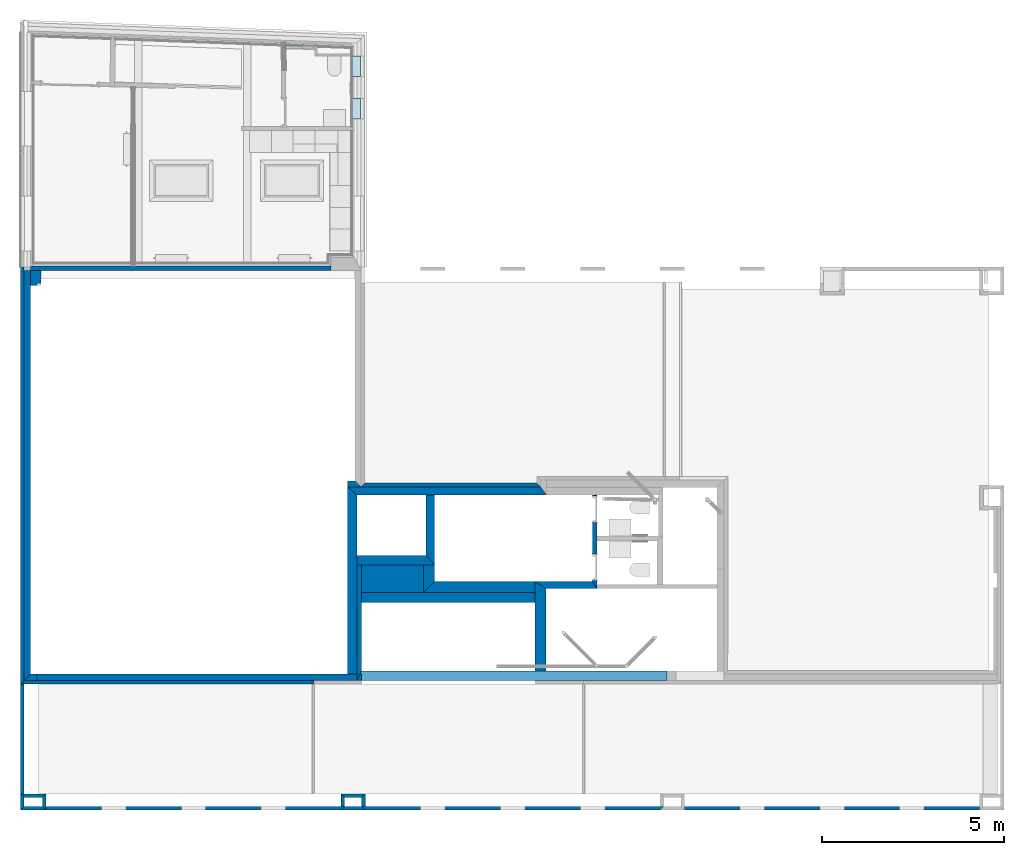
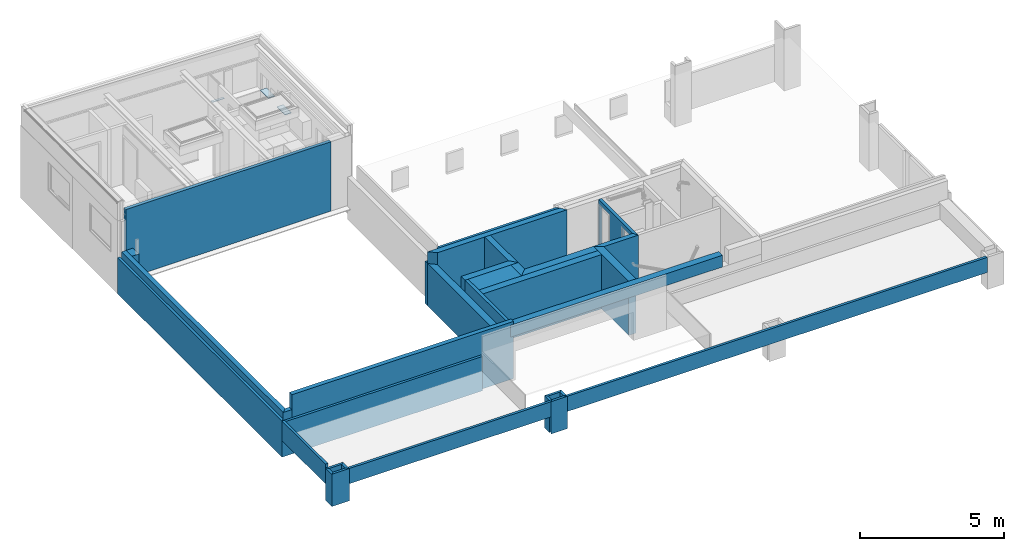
# One storey, part 2 of 23: 32 walls, 3 slabs, 2 openings.
"""IFC2X3 building model written with IfcOpenShell, lengths in metres."""

from ifc_helpers import new_model, entity, si_unit, converted_unit, derived_unit, money_unit, direction, frame, frame_2d, origin_with_axes, place, context, subcontext, project, spatial, polyline, rectangle, outline, extrude, faceted_brep, material, layer, layer_set, layer_usage, type_object, element, save


model = new_model("IFC2X3")

# Units and contexts
model_context = context("Model", 3, precision=1e-05, world=origin_with_axes(), true_north=direction((0.0, 1.0)))
body_context = subcontext(model_context, "Body", "Model", "MODEL_VIEW", scale=1.0)
ifc_project = project(units=[si_unit("LENGTHUNIT", "METRE"), si_unit("AREAUNIT", "SQUARE_METRE"), si_unit("VOLUMEUNIT", "CUBIC_METRE"), si_unit("ABSORBEDDOSEUNIT", "GRAY"), si_unit("AMOUNTOFSUBSTANCEUNIT", "MOLE"), si_unit("DOSEEQUIVALENTUNIT", "SIEVERT"), si_unit("ELECTRICCAPACITANCEUNIT", "FARAD"), si_unit("ELECTRICCHARGEUNIT", "COULOMB"), si_unit("ELECTRICCONDUCTANCEUNIT", "SIEMENS"), si_unit("ELECTRICCURRENTUNIT", "AMPERE"), si_unit("ELECTRICRESISTANCEUNIT", "OHM"), si_unit("ELECTRICVOLTAGEUNIT", "VOLT"), si_unit("ENERGYUNIT", "JOULE"), si_unit("FORCEUNIT", "NEWTON"), si_unit("FREQUENCYUNIT", "HERTZ"), si_unit("ILLUMINANCEUNIT", "LUX"), si_unit("INDUCTANCEUNIT", "HENRY"), si_unit("LUMINOUSFLUXUNIT", "LUMEN"), si_unit("LUMINOUSINTENSITYUNIT", "CANDELA"), si_unit("MAGNETICFLUXDENSITYUNIT", "TESLA"), si_unit("MAGNETICFLUXUNIT", "WEBER"), si_unit("MASSUNIT", "GRAM"), converted_unit("PLANEANGLEUNIT", "degree", entity("IfcReal", 0.0174532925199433), si_unit("PLANEANGLEUNIT", "RADIAN"), dimensions=[0, 0, 0, 0, 0, 0, 0]), si_unit("POWERUNIT", "WATT"), si_unit("PRESSUREUNIT", "PASCAL"), si_unit("RADIOACTIVITYUNIT", "BECQUEREL"), si_unit("SOLIDANGLEUNIT", "STERADIAN"), si_unit("THERMODYNAMICTEMPERATUREUNIT", "KELVIN"), si_unit("TIMEUNIT", "SECOND"), derived_unit("ACCELERATIONUNIT", [(si_unit("LENGTHUNIT", "METRE"), 1), (si_unit("TIMEUNIT", "SECOND"), -2)]), derived_unit("ANGULARVELOCITYUNIT", [(converted_unit("PLANEANGLEUNIT", "degree", entity("IfcReal", 0.0174532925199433), si_unit("PLANEANGLEUNIT", "RADIAN"), dimensions=[0, 0, 0, 0, 0, 0, 0]), 1), (si_unit("TIMEUNIT", "SECOND"), -1)]), derived_unit("CURVATUREUNIT", [(converted_unit("PLANEANGLEUNIT", "degree", entity("IfcReal", 0.0174532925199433), si_unit("PLANEANGLEUNIT", "RADIAN"), dimensions=[0, 0, 0, 0, 0, 0, 0]), 1), (si_unit("LENGTHUNIT", "METRE"), -1)]), derived_unit("DYNAMICVISCOSITYUNIT", [(si_unit("PRESSUREUNIT", "PASCAL"), 1), (si_unit("TIMEUNIT", "SECOND"), 1)]), derived_unit("HEATFLUXDENSITYUNIT", [(si_unit("POWERUNIT", "WATT"), 1), (si_unit("LENGTHUNIT", "METRE"), -2)]), derived_unit("HEATINGVALUEUNIT", [(si_unit("ENERGYUNIT", "JOULE"), 1), (si_unit("MASSUNIT", "GRAM"), -1)]), derived_unit("INTEGERCOUNTRATEUNIT", [(si_unit("TIMEUNIT", "SECOND"), -1)]), derived_unit("IONCONCENTRATIONUNIT", [(si_unit("MASSUNIT", "GRAM"), 1), (si_unit("VOLUMEUNIT", "CUBIC_METRE"), -1)]), derived_unit("ISOTHERMALMOISTURECAPACITYUNIT", [(si_unit("VOLUMEUNIT", "CUBIC_METRE"), 1), (si_unit("MASSUNIT", "GRAM"), -1)]), derived_unit("KINEMATICVISCOSITYUNIT", [(si_unit("AREAUNIT", "SQUARE_METRE"), 1), (si_unit("TIMEUNIT", "SECOND"), -1)]), derived_unit("LINEARFORCEUNIT", [(si_unit("FORCEUNIT", "NEWTON"), 1), (si_unit("LENGTHUNIT", "METRE"), -1)]), derived_unit("LINEARMOMENTUNIT", [(si_unit("FORCEUNIT", "NEWTON"), 1), (si_unit("LENGTHUNIT", "METRE"), -1)]), derived_unit("LINEARSTIFFNESSUNIT", [(si_unit("FORCEUNIT", "NEWTON"), 1), (si_unit("LENGTHUNIT", "METRE"), -1)]), derived_unit("LINEARVELOCITYUNIT", [(si_unit("LENGTHUNIT", "METRE"), 1), (si_unit("TIMEUNIT", "SECOND"), -1)]), derived_unit("LUMINOUSINTENSITYDISTRIBUTIONUNIT", [(si_unit("LUMINOUSINTENSITYUNIT", "CANDELA"), 1), (si_unit("LUMINOUSFLUXUNIT", "LUMEN"), -1)]), derived_unit("MASSDENSITYUNIT", [(si_unit("MASSUNIT", "GRAM"), 1), (si_unit("VOLUMEUNIT", "CUBIC_METRE"), -1)]), derived_unit("MASSFLOWRATEUNIT", [(si_unit("MASSUNIT", "GRAM"), 1), (si_unit("TIMEUNIT", "SECOND"), -1)]), derived_unit("MASSPERLENGTHUNIT", [(si_unit("MASSUNIT", "GRAM"), 1), (si_unit("LENGTHUNIT", "METRE"), -1)]), derived_unit("MODULUSOFELASTICITYUNIT", [(si_unit("FORCEUNIT", "NEWTON"), 1), (si_unit("AREAUNIT", "SQUARE_METRE"), -1)]), derived_unit("MODULUSOFLINEARSUBGRADEREACTIONUNIT", [(si_unit("FORCEUNIT", "NEWTON"), 1), (si_unit("LENGTHUNIT", "METRE"), -2)]), derived_unit("MODULUSOFROTATIONALSUBGRADEREACTIONUNIT", [(si_unit("FORCEUNIT", "NEWTON"), 1), (si_unit("LENGTHUNIT", "METRE"), 1)]), derived_unit("MODULUSOFSUBGRADEREACTIONUNIT", [(si_unit("FORCEUNIT", "NEWTON"), 1), (si_unit("VOLUMEUNIT", "CUBIC_METRE"), -1)]), derived_unit("MOISTUREDIFFUSIVITYUNIT", [(si_unit("VOLUMEUNIT", "CUBIC_METRE"), 1), (si_unit("TIMEUNIT", "SECOND"), -1)]), derived_unit("MOLECULARWEIGHTUNIT", [(si_unit("MASSUNIT", "GRAM"), 1), (si_unit("AMOUNTOFSUBSTANCEUNIT", "MOLE"), -1)]), derived_unit("PLANARFORCEUNIT", [(si_unit("FORCEUNIT", "NEWTON"), 1), (si_unit("LENGTHUNIT", "METRE"), -2)]), derived_unit("ROTATIONALFREQUENCYUNIT", [(si_unit("TIMEUNIT", "SECOND"), -1)]), derived_unit("ROTATIONALMASSUNIT", [(si_unit("MASSUNIT", "GRAM"), 1), (si_unit("LENGTHUNIT", "METRE"), 2)]), derived_unit("ROTATIONALSTIFFNESSUNIT", [(si_unit("FORCEUNIT", "NEWTON"), 1), (si_unit("LENGTHUNIT", "METRE"), 1), (converted_unit("PLANEANGLEUNIT", "degree", entity("IfcReal", 0.0174532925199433), si_unit("PLANEANGLEUNIT", "RADIAN"), dimensions=[0, 0, 0, 0, 0, 0, 0]), -1)]), derived_unit("SECTIONAREAINTEGRALUNIT", [(si_unit("LENGTHUNIT", "METRE"), 5)]), derived_unit("SECTIONMODULUSUNIT", [(si_unit("LENGTHUNIT", "METRE"), 3)]), derived_unit("SHEARMODULUSUNIT", [(si_unit("FORCEUNIT", "NEWTON"), 1), (si_unit("AREAUNIT", "SQUARE_METRE"), -1)]), derived_unit("SOUNDPOWERUNIT", [(si_unit("ENERGYUNIT", "JOULE"), 1), (si_unit("TIMEUNIT", "SECOND"), -1)]), derived_unit("SPECIFICHEATCAPACITYUNIT", [(si_unit("FORCEUNIT", "NEWTON"), 1), (si_unit("MASSUNIT", "GRAM"), -1), (si_unit("THERMODYNAMICTEMPERATUREUNIT", "KELVIN"), -1)]), derived_unit("TEMPERATUREGRADIENTUNIT", [(si_unit("THERMODYNAMICTEMPERATUREUNIT", "KELVIN"), 1), (si_unit("LENGTHUNIT", "METRE"), -1)]), derived_unit("THERMALADMITTANCEUNIT", [(si_unit("POWERUNIT", "WATT"), 1), (si_unit("AREAUNIT", "SQUARE_METRE"), -1), (si_unit("THERMODYNAMICTEMPERATUREUNIT", "KELVIN"), -1)]), derived_unit("THERMALCONDUCTANCEUNIT", [(si_unit("POWERUNIT", "WATT"), 1), (si_unit("LENGTHUNIT", "METRE"), -1), (si_unit("THERMODYNAMICTEMPERATUREUNIT", "KELVIN"), -1)]), derived_unit("THERMALEXPANSIONCOEFFICIENTUNIT", [(si_unit("THERMODYNAMICTEMPERATUREUNIT", "KELVIN"), -1)]), derived_unit("THERMALRESISTANCEUNIT", [(si_unit("AREAUNIT", "SQUARE_METRE"), 1), (si_unit("POWERUNIT", "WATT"), -1)]), derived_unit("THERMALTRANSMITTANCEUNIT", [(si_unit("POWERUNIT", "WATT"), 1), (si_unit("AREAUNIT", "SQUARE_METRE"), -1), (si_unit("THERMODYNAMICTEMPERATUREUNIT", "KELVIN"), -1)]), derived_unit("TORQUEUNIT", [(si_unit("FORCEUNIT", "NEWTON"), 1), (si_unit("LENGTHUNIT", "METRE"), 1)]), derived_unit("VAPORPERMEABILITYUNIT", [(si_unit("MASSUNIT", "GRAM"), 1), (si_unit("TIMEUNIT", "SECOND"), -1)]), derived_unit("VOLUMETRICFLOWRATEUNIT", [(si_unit("VOLUMEUNIT", "CUBIC_METRE"), 1), (si_unit("TIMEUNIT", "SECOND"), -1)]), derived_unit("WARPINGCONSTANTUNIT", [(si_unit("LENGTHUNIT", "METRE"), 6)]), derived_unit("WARPINGMOMENTUNIT", [(si_unit("FORCEUNIT", "NEWTON"), 1), (si_unit("LENGTHUNIT", "METRE"), 2)]), money_unit("GBP")], contexts=[model_context])

# Site, building, storey
site_placement = place(None, origin_with_axes())
site = spatial("IfcSite", under=ifc_project, at=site_placement, Name="Site", CompositionType="ELEMENT")
building_placement = place(site_placement, origin_with_axes())
building = spatial("IfcBuilding", under=site, at=building_placement, Name="Building01", CompositionType="ELEMENT")
storey_placement = place(building_placement, frame((0.0, 0.0, 2.6), z_axis=(0.0, 0.0, 1.0), x_axis=(1.0, 0.0, 0.0)))
storey = spatial("IfcBuildingStorey", under=building, at=storey_placement, Name="MF", CompositionType="ELEMENT", Elevation=2.6)

# Slabs
ifc_material_1 = material(Name="A_BSUK_Ceramic_WallTiles")
slab_type = type_object("IfcSlabType", Name="A-FloorsSlabs A_BSUK_Slabs", PredefinedType="FLOOR")
placement = place(storey_placement, frame((0.0, 0.0, -2.6), z_axis=(0.0, 0.0, 1.0), x_axis=(1.0, 0.0, 0.0)))
element("IfcSlab", 1, at=placement, inside=storey, type_object=slab_type, material=ifc_material_1, Name="A-FloorsSlabs A_BSUK_Slabs", ObjectType="CompoundSlabLeaf", context=body_context, shape_type="Brep", body=[
    faceted_brep([(7.264605, 20.87911, 4.535), (7.264605, 20.87911, 4.56), (7.263451, 20.984048, 4.56), (7.263451, 20.984048, 4.535), (7.748799, 20.87911, 4.535), (7.748799, 20.87911, 4.56), (7.748799, 20.966043, 4.535), (7.748799, 20.966043, 4.56)], [[[0, 1, 2, 3]], [[4, 5, 1, 0]], [[6, 7, 5, 4]], [[3, 2, 7, 6]], [[1, 5, 7, 2]], [[3, 6, 4, 0]]]),
])
ifc_material_2 = material(Name="A_BSUK_Timber_Miscellaneous")
element("IfcSlab", 2, at=placement, inside=storey, type_object=slab_type, material=ifc_material_2, Name="A-FloorsSlabs A_BSUK_Slabs", ObjectType="CompoundSlabLeaf", context=body_context, shape_type="Brep", body=[
    faceted_brep([(9.067259, 20.683903, 4.535), (9.067259, 20.683903, 4.56), (9.329665, 20.683903, 4.56), (9.329665, 20.683903, 4.535), (9.067259, 20.123903, 4.535), (9.067259, 20.123903, 4.56), (9.329665, 20.123903, 4.535), (9.329665, 20.123903, 4.56)], [[[0, 1, 2, 3]], [[4, 5, 1, 0]], [[6, 7, 5, 4]], [[3, 2, 7, 6]], [[1, 5, 7, 2]], [[3, 6, 4, 0]]]),
])
element("IfcSlab", 3, at=placement, inside=storey, type_object=slab_type, material=ifc_material_2, Name="A-FloorsSlabs A_BSUK_Slabs", ObjectType="CompoundSlabLeaf", context=body_context, shape_type="Brep", body=[
    faceted_brep([(9.067259, 19.522294, 4.535), (9.067259, 19.522294, 4.56), (9.329665, 19.522294, 4.56), (9.329665, 19.522294, 4.535), (9.067259, 18.962294, 4.535), (9.067259, 18.962294, 4.56), (9.329665, 18.962294, 4.535), (9.329665, 18.962294, 4.56)], [[[0, 1, 2, 3]], [[4, 5, 1, 0]], [[6, 7, 5, 4]], [[3, 2, 7, 6]], [[1, 5, 7, 2]], [[3, 6, 4, 0]]]),
])

# Walls
ifc_material_3 = material(Name="A_BSUK_WallsExternal_Brick")
ifc_layer_1 = layer(ifc_material_3, 0.1, ventilated=False)
ifc_layer_set_1 = layer_set([ifc_layer_1])
ifc_layer_usage_1 = layer_usage(ifc_layer_set_1, "AXIS2", "POSITIVE", 0.0)
wall_type_1 = type_object("IfcWallType", Name="A-Walls-ExternalBrick", PredefinedType="NOTDEFINED")
wall_1_placement = place(storey_placement, frame((0.7, 0.0, 0.0), z_axis=(0.0, 0.0, 1.0), x_axis=(0.0, 1.0, 0.0)))
element("IfcWallStandardCase", 4, at=wall_1_placement, inside=storey, type_object=wall_type_1, material=ifc_layer_usage_1, Name="A-Walls-ExternalBrick", ObjectType="A-Walls-ExternalBrick", context=body_context, shape_type="SweptSolid", body=[
    extrude(outline(polyline([(0.349667, 0.1), (0.1, 0.1), (0.0, 0.0), (0.449667, 0.0), (0.349667, 0.1)])), origin_with_axes(), (0.0, 0.0, 1.0), 1.37),
])
wall_2_placement = place(storey_placement, frame((0.7, 0.449667, 0.0), z_axis=(0.0, 0.0, 1.0), x_axis=(-1.0, 0.0, 0.0)))
element("IfcWallStandardCase", 5, at=wall_2_placement, inside=storey, type_object=wall_type_1, material=ifc_layer_usage_1, Name="A-Walls-ExternalBrick", ObjectType="A-Walls-ExternalBrick", context=body_context, shape_type="SweptSolid", body=[
    extrude(outline(polyline([(0.599983, 0.1), (0.1, 0.1), (0.0, 0.0), (0.699983, 0.0), (0.599983, 0.1)])), origin_with_axes(), (0.0, 0.0, 1.0), 1.37),
])
wall_3_placement = place(storey_placement, frame((1.7e-05, 0.449667, 0.0), z_axis=(0.0, 0.0, 1.0), x_axis=(0.0, -1.0, 0.0)))
element("IfcWallStandardCase", 6, at=wall_3_placement, inside=storey, type_object=wall_type_1, material=ifc_layer_usage_1, Name="A-Walls-ExternalBrick", ObjectType="A-Walls-ExternalBrick", context=body_context, shape_type="SweptSolid", body=[
    extrude(outline(polyline([(0.349667, 0.1), (0.1, 0.1), (0.0, 0.0), (0.449667, 0.0), (0.349667, 0.1)])), origin_with_axes(), (0.0, 0.0, 1.0), 1.37),
])
wall_4_placement = place(storey_placement, frame((8.79, -0.000329, 0.0), z_axis=(0.0, 0.0, 1.0), x_axis=(1.0, 0.0, 0.0)))
element("IfcWallStandardCase", 7, at=wall_4_placement, inside=storey, type_object=wall_type_1, material=ifc_layer_usage_1, Name="A-Walls-ExternalBrick", ObjectType="A-Walls-ExternalBrick", context=body_context, shape_type="SweptSolid", body=[
    extrude(outline(polyline([(0.57, 0.1), (0.1, 0.1), (0.0, 0.0), (0.67, 0.0), (0.57, 0.1)])), origin_with_axes(), (0.0, 0.0, 1.0), 1.37),
])
wall_5_placement = place(storey_placement, frame((9.46, 0.1, 0.0), z_axis=(0.0, 0.0, 1.0), x_axis=(0.0, 1.0, 0.0)))
element("IfcWallStandardCase", 8, at=wall_5_placement, inside=storey, type_object=wall_type_1, material=ifc_layer_usage_1, Name="A-Walls-ExternalBrick", ObjectType="A-Walls-ExternalBrick", context=body_context, shape_type="SweptSolid", body=[
    extrude(outline(polyline([(0.249338, 0.1), (0.0, 0.1), (0.0, 0.0), (0.349338, 0.0), (0.249338, 0.1)])), origin_with_axes(), (0.0, 0.0, 1.0), 1.37),
])
wall_6_placement = place(storey_placement, frame((9.46, 0.449338, 0.0), z_axis=(0.0, 0.0, 1.0), x_axis=(-1.0, 0.0, 0.0)))
element("IfcWallStandardCase", 9, at=wall_6_placement, inside=storey, type_object=wall_type_1, material=ifc_layer_usage_1, Name="A-Walls-ExternalBrick", ObjectType="A-Walls-ExternalBrick", context=body_context, shape_type="SweptSolid", body=[
    extrude(outline(polyline([(0.57, 0.1), (0.1, 0.1), (0.0, 0.0), (0.67, 0.0), (0.57, 0.1)])), origin_with_axes(), (0.0, 0.0, 1.0), 1.37),
])
wall_7_placement = place(storey_placement, frame((8.79, 0.449338, 0.0), z_axis=(0.0, 0.0, 1.0), x_axis=(0.0, -1.0, 0.0)))
element("IfcWallStandardCase", 10, at=wall_7_placement, inside=storey, type_object=wall_type_1, material=ifc_layer_usage_1, Name="A-Walls-ExternalBrick", ObjectType="A-Walls-ExternalBrick", context=body_context, shape_type="SweptSolid", body=[
    extrude(outline(polyline([(0.349338, 0.1), (0.1, 0.1), (0.0, 0.0), (0.349338, 0.0), (0.349338, 0.1)])), origin_with_axes(), (0.0, 0.0, 1.0), 1.37),
])
wall_8_placement = place(storey_placement, frame((0.7, 0.0, 0.725), z_axis=(0.0, 0.0, 1.0), x_axis=(1.0, 0.0, 0.0)))
element("IfcWallStandardCase", 11, at=wall_8_placement, inside=storey, type_object=wall_type_1, material=ifc_layer_usage_1, Name="A-Walls-ExternalBrick", ObjectType="A-Walls-ExternalBrick", context=body_context, shape_type="SweptSolid", body=[
    extrude(rectangle(XDim=25.61, YDim=0.1, at=frame_2d((12.805, 0.05), x_axis=(-1.0, 0.0))), origin_with_axes(), (0.0, 0.0, 1.0), 0.645),
])
wall_9_placement = place(storey_placement, frame((14.172347, 8.971346, 0.0), z_axis=(0.0, 0.0, 1.0), x_axis=(-1.0, 3.756e-05, 0.0)))
element("IfcWallStandardCase", 12, at=wall_9_placement, inside=storey, type_object=wall_type_1, material=ifc_layer_usage_1, Name="A-Walls-ExternalBrick", ObjectType="A-Walls-ExternalBrick", context=body_context, shape_type="SweptSolid", body=[
    extrude(outline(polyline([(4.829305, 0.1), (-0.1, 0.1), (0.0, 0.0), (4.729309, 0.0), (4.829305, 0.1)])), origin_with_axes(), (0.0, 0.0, 1.0), 2.3),
])
wall_10_placement = place(storey_placement, frame((0.000679, 3.459332, 0.698), z_axis=(0.0, 0.0, 1.0), x_axis=(0.0, -1.0, 0.0)))
element("IfcWallStandardCase", 13, at=wall_10_placement, inside=storey, type_object=wall_type_1, material=ifc_layer_usage_1, Name="A-Walls-ExternalBrick", ObjectType="A-Walls-ExternalBrick", context=body_context, shape_type="SweptSolid", body=[
    extrude(rectangle(XDim=3.009665, YDim=0.1, at=frame_2d((1.504833, 0.05), x_axis=(-1.0, 0.0))), origin_with_axes(), (0.0, 0.0, 1.0), 0.832),
])
wall_11_placement = place(storey_placement, frame((0.000679, 3.459332, 0.0), z_axis=(0.0, 0.0, 1.0), x_axis=(1.0, 0.0, 0.0)))
element("IfcWallStandardCase", 14, at=wall_11_placement, inside=storey, type_object=wall_type_1, material=ifc_layer_usage_1, Name="A-Walls-ExternalBrick", ObjectType="A-Walls-ExternalBrick", context=body_context, shape_type="SweptSolid", body=[
    extrude(outline(polyline([(8.053415, 0.1), (0.1, 0.1), (0.0, 0.0), (8.053415, 0.0), (8.053415, 0.1)])), origin_with_axes(), (0.0, 0.0, 1.0), 1.46),
])
wall_12_placement = place(storey_placement, frame((0.000679, 14.9, 0.0), z_axis=(0.0, 0.0, 1.0), x_axis=(0.0, -1.0, 0.0)))
element("IfcWallStandardCase", 15, at=wall_12_placement, inside=storey, type_object=wall_type_1, material=ifc_layer_usage_1, Name="A-Walls-ExternalBrick", ObjectType="A-Walls-ExternalBrick", context=body_context, shape_type="SweptSolid", body=[
    extrude(outline(polyline([(11.340668, 0.1), (0.0, 0.1), (0.0, 0.0), (11.440668, 0.0), (11.340668, 0.1)])), origin_with_axes(), (0.0, 0.0, 1.0), 1.53),
])
wall_13_placement = place(storey_placement, frame((1.7e-05, 0.0, 0.0), z_axis=(0.0, 0.0, 1.0), x_axis=(1.0, 0.0, 0.0)))
element("IfcWallStandardCase", 16, at=wall_13_placement, inside=storey, type_object=wall_type_1, material=ifc_layer_usage_1, Name="A-Walls-ExternalBrick", ObjectType="A-Walls-ExternalBrick", context=body_context, shape_type="SweptSolid", body=[
    extrude(outline(polyline([(0.599983, 0.1), (0.1, 0.1), (0.0, 0.0), (0.699983, 0.0), (0.599983, 0.1)])), origin_with_axes(), (0.0, 0.0, 1.0), 1.37),
])
ifc_material_4 = material(Name="A_BSUK_WallsExternal_Block")
ifc_layer_2 = layer(ifc_material_4, 0.224, ventilated=False)
ifc_layer_set_2 = layer_set([ifc_layer_2])
ifc_layer_usage_2 = layer_usage(ifc_layer_set_2, "AXIS2", "POSITIVE", 0.0)
wall_type_2 = type_object("IfcWallType", Name="A-Walls-ExternalBlock", PredefinedType="NOTDEFINED")
wall_14_placement = place(storey_placement, frame((9.229999, 8.64741, 0.0), z_axis=(0.0, 0.0, 1.0), x_axis=(1.0, 0.0, 0.0)))
element("IfcWallStandardCase", 17, at=wall_14_placement, inside=storey, type_object=wall_type_2, material=ifc_layer_usage_2, Name="A-Walls-ExternalBlock", ObjectType="A-Walls-ExternalBlock", context=body_context, shape_type="SweptSolid", body=[
    extrude(outline(polyline([(5.042351, 0.224), (-0.264901, 0.224), (0.0, 0.0), (5.201351, 0.0), (5.042351, 0.224)])), origin_with_axes(), (0.0, 0.0, 1.0), 2.3),
])
ifc_layer_3 = layer(ifc_material_4, 0.164, ventilated=False)
ifc_layer_set_3 = layer_set([ifc_layer_3])
ifc_layer_usage_3 = layer_usage(ifc_layer_set_3, "AXIS2", "POSITIVE", 0.0)
wall_15_placement = place(storey_placement, frame((9.173127, 9.035141, 0.0), z_axis=(0.0, 0.0, 1.0), x_axis=(-1.0, 0.0, 0.0)))
element("IfcWallStandardCase", 18, at=wall_15_placement, inside=storey, type_object=wall_type_2, material=ifc_layer_usage_3, Name="A-Walls-ExternalBlock", ObjectType="A-Walls-ExternalBlock", context=body_context, shape_type="SweptSolid", body=[
    extrude(outline(polyline([(-0.17, 0.164), (0.0, 0.0), (0.207627, 0.0), (0.207627, 0.164), (-0.17, 0.164)])), origin_with_axes(), (0.0, 0.0, 1.0), 1.8),
])
ifc_layer_4 = layer(ifc_material_4, 0.264900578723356, ventilated=False)
ifc_layer_set_4 = layer_set([ifc_layer_4])
ifc_layer_usage_4 = layer_usage(ifc_layer_set_4, "AXIS2", "POSITIVE", 0.0)
wall_16_placement = place(storey_placement, frame((9.229999, 3.733332, 0.0), z_axis=(0.0, 0.0, 1.0), x_axis=(0.0, 1.0, 0.0)))
element("IfcWallStandardCase", 19, at=wall_16_placement, inside=storey, type_object=wall_type_2, material=ifc_layer_usage_4, Name="A-Walls-ExternalBlock", ObjectType="A-Walls-ExternalBlock", context=body_context, shape_type="SweptSolid", body=[
    extrude(outline(polyline([(5.138078, 0.264901), (0.0, 0.264901), (0.0, 0.0), (4.914078, 0.0), (5.138078, 0.264901)])), origin_with_axes(), (0.0, 0.0, 1.0), 1.8),
])
ifc_layer_5 = layer(ifc_material_4, 0.174, ventilated=False)
ifc_layer_set_5 = layer_set([ifc_layer_5])
ifc_layer_usage_5 = layer_usage(ifc_layer_set_5, "AXIS2", "POSITIVE", 0.0)
wall_17_placement = place(storey_placement, frame((9.354099, 3.733332, 0.0), z_axis=(0.0, 0.0, 1.0), x_axis=(-1.0, 0.0, 0.0)))
element("IfcWallStandardCase", 20, at=wall_17_placement, inside=storey, type_object=wall_type_2, material=ifc_layer_usage_5, Name="A-Walls-ExternalBlock", ObjectType="A-Walls-ExternalBlock", context=body_context, shape_type="SweptSolid", body=[
    extrude(rectangle(XDim=8.904103, YDim=0.174, at=frame_2d((4.452051, 0.087), x_axis=(-1.0, 0.0))), origin_with_axes(), (0.0, 0.0, 1.0), 2.43),
])
ifc_layer_6 = layer(ifc_material_4, 0.18, ventilated=False)
ifc_layer_set_6 = layer_set([ifc_layer_6])
ifc_layer_usage_6 = layer_usage(ifc_layer_set_6, "AXIS2", "POSITIVE", 0.0)
wall_18_placement = place(storey_placement, frame((0.280357, 3.733339, 0.0), z_axis=(0.0, 0.0, 1.0), x_axis=(3.756e-05, 1.0, 0.0)))
element("IfcWallStandardCase", 21, at=wall_18_placement, inside=storey, type_object=wall_type_2, material=ifc_layer_usage_6, Name="A-Walls-ExternalBlock", ObjectType="A-Walls-ExternalBlock", context=body_context, shape_type="SweptSolid", body=[
    extrude(outline(polyline([(11.066661, 0.18), (-0.173917, 0.18), (0.0, 0.0), (11.066661, 0.0), (11.066661, 0.18)])), origin_with_axes(), (0.0, 0.0, 1.0), 1.8),
])
ifc_layer_7 = layer(ifc_material_4, 0.284945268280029, ventilated=False)
ifc_layer_set_7 = layer_set([ifc_layer_7])
ifc_layer_usage_7 = layer_usage(ifc_layer_set_7, "AXIS2", "POSITIVE", 0.0)
wall_19_placement = place(storey_placement, frame((0.565702, 14.389942, 0.0), z_axis=(0.0, 0.0, 1.0), x_axis=(0.0, 1.0, 0.0)))
element("IfcWallStandardCase", 22, at=wall_19_placement, inside=storey, type_object=wall_type_2, material=ifc_layer_usage_7, Name="A-Walls-ExternalBlock", ObjectType="A-Walls-ExternalBlock", context=body_context, shape_type="SweptSolid", body=[
    extrude(rectangle(XDim=0.410058, YDim=0.284945, at=frame_2d((0.205029, 0.142473), x_axis=(-1.0, 0.0))), origin_with_axes(), (0.0, 0.0, 1.0), 1.8),
])

# Wall, openings
ifc_layer_8 = layer(ifc_material_4, 0.118, ventilated=False)
ifc_layer_set_8 = layer_set([ifc_layer_8])
ifc_layer_usage_8 = layer_usage(ifc_layer_set_8, "AXIS2", "POSITIVE", 0.0)
wall_20_placement = place(storey_placement, frame((15.698265, 8.64741, 0.0), z_axis=(0.0, 0.0, 1.0), x_axis=(0.0, -1.0, 0.0)))
wall_20 = element("IfcWallStandardCase", 23, at=wall_20_placement, inside=storey, type_object=wall_type_2, material=ifc_layer_usage_8, Name="A-Walls-ExternalBlock", ObjectType="A-Walls-ExternalBlock", context=body_context, shape_type="SweptSolid", body=[
    extrude(outline(polyline([(2.570426, 0.118), (0.0, 0.118), (0.0, 0.0), (2.376426, 0.0), (2.570426, 0.118)])), origin_with_axes(), (0.0, 0.0, 1.0), 2.3),
])
opening_1_placement = place(wall_20_placement, frame((1.615426, 0.0, 0.0), z_axis=(0.0, 0.0, 1.0), x_axis=(1.0, 0.0, 0.0)))
element("IfcOpeningElement", 24, at=opening_1_placement, cuts=wall_20, Name="Opening", ObjectType="Opening", context=body_context, shape_type="SweptSolid", body=[
    extrude(rectangle(XDim=2.1, YDim=0.734, at=frame_2d((-0.367, 1.05), x_axis=(0.0, -1.0))), frame((0.0, 0.0, 0.0), z_axis=(0.0, 1.0, 0.0), x_axis=(-1.0, 0.0, 0.0)), (0.0, 0.0, 1.0), 0.118),
])
opening_2_placement = place(wall_20_placement, frame((0.027, 0.0, 0.0), z_axis=(0.0, 0.0, 1.0), x_axis=(1.0, 0.0, 0.0)))
element("IfcOpeningElement", 25, at=opening_2_placement, cuts=wall_20, Name="Opening", ObjectType="Opening", context=body_context, shape_type="SweptSolid", body=[
    extrude(rectangle(XDim=2.1, YDim=0.734, at=frame_2d((-0.367, 1.05), x_axis=(0.0, -1.0))), frame((0.0, 0.0, 0.0), z_axis=(0.0, 1.0, 0.0), x_axis=(-1.0, 0.0, 0.0)), (0.0, 0.0, 1.0), 0.118),
])

# Walls
ifc_layer_9 = layer(ifc_material_4, 0.194, ventilated=False)
ifc_layer_set_9 = layer_set([ifc_layer_9])
ifc_layer_usage_9 = layer_usage(ifc_layer_set_9, "AXIS2", "POSITIVE", 0.0)
wall_21_placement = place(storey_placement, frame((14.421434, 6.076984, 0.0), z_axis=(0.0, 0.0, 1.0), x_axis=(1.0, 0.0, 0.0)))
element("IfcWallStandardCase", 26, at=wall_21_placement, inside=storey, type_object=wall_type_2, material=ifc_layer_usage_9, Name="A-Walls-ExternalBlock", ObjectType="A-Walls-ExternalBlock", context=body_context, shape_type="SweptSolid", body=[
    extrude(outline(polyline([(1.276831, 0.194), (-0.3, 0.194), (0.0, 0.0), (1.394831, 0.0), (1.276831, 0.194)])), origin_with_axes(), (0.0, 0.0, 1.0), 2.3),
])
ifc_layer_10 = layer(ifc_material_4, 0.3, ventilated=False)
ifc_layer_set_10 = layer_set([ifc_layer_10])
ifc_layer_usage_10 = layer_usage(ifc_layer_set_10, "AXIS2", "POSITIVE", 0.0)
wall_22_placement = place(storey_placement, frame((14.421434, 3.823962, 0.0), z_axis=(0.0, 0.0, 1.0), x_axis=(0.0, 1.0, 0.0)))
element("IfcWallStandardCase", 27, at=wall_22_placement, inside=storey, type_object=wall_type_2, material=ifc_layer_usage_10, Name="A-Walls-ExternalBlock", ObjectType="A-Walls-ExternalBlock", context=body_context, shape_type="SweptSolid", body=[
    extrude(outline(polyline([(2.447022, 0.3), (0.0, 0.3), (0.0, 0.0), (2.253022, 0.0), (2.447022, 0.3)])), origin_with_axes(), (0.0, 0.0, 1.0), 2.3),
])
wall_23_placement = place(storey_placement, frame((14.459829, 6.270984, 0.0), z_axis=(0.0, 0.0, 1.0), x_axis=(-1.0, 0.0, 0.0)))
element("IfcWallStandardCase", 28, at=wall_23_placement, inside=storey, type_object=wall_type_2, material=ifc_layer_usage_10, Name="A-Walls-ExternalBlock", ObjectType="A-Walls-ExternalBlock", context=body_context, shape_type="SweptSolid", body=[
    extrude(outline(polyline([(3.397634, 0.3), (0.3, 0.3), (0.0, 0.0), (3.097634, 0.0), (3.397634, 0.3)])), origin_with_axes(), (0.0, 0.0, 1.0), 2.3),
])
wall_24_placement = place(storey_placement, frame((11.362195, 6.270984, 0.0), z_axis=(0.0, 0.0, 1.0), x_axis=(0.0, 1.0, 0.0)))
element("IfcWallStandardCase", 29, at=wall_24_placement, inside=storey, type_object=wall_type_2, material=ifc_layer_usage_10, Name="A-Walls-ExternalBlock", ObjectType="A-Walls-ExternalBlock", context=body_context, shape_type="SweptSolid", body=[
    extrude(outline(polyline([(0.454777, 0.3), (-0.3, 0.3), (0.0, 0.0), (0.454777, 0.0), (0.454777, 0.3)])), origin_with_axes(), (0.0, 0.0, 1.0), 2.3),
])
ifc_layer_11 = layer(ifc_material_4, 0.27793443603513, ventilated=False)
ifc_layer_set_11 = layer_set([ifc_layer_11])
ifc_layer_usage_11 = layer_usage(ifc_layer_set_11, "AXIS2", "POSITIVE", 0.0)
wall_25_placement = place(storey_placement, frame((14.121434, 5.970984, 0.0), z_axis=(0.0, 0.0, 1.0), x_axis=(-1.0, 0.0, 0.0)))
element("IfcWallStandardCase", 30, at=wall_25_placement, inside=storey, type_object=wall_type_2, material=ifc_layer_usage_11, Name="A-Walls-ExternalBlock", ObjectType="A-Walls-ExternalBlock", context=body_context, shape_type="SweptSolid", body=[
    extrude(rectangle(XDim=4.891435, YDim=0.277934, at=frame_2d((2.445717, 0.138967), x_axis=(-1.0, 0.0))), origin_with_axes(), (0.0, 0.0, 1.0), 2.3),
])
ifc_layer_12 = layer(ifc_material_4, 0.754777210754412, ventilated=False)
ifc_layer_set_12 = layer_set([ifc_layer_12])
ifc_layer_usage_12 = layer_usage(ifc_layer_set_12, "AXIS2", "POSITIVE", 0.0)
wall_26_placement = place(storey_placement, frame((11.062195, 6.725761, 0.0), z_axis=(0.0, 0.0, 1.0), x_axis=(-1.0, 0.0, 0.0)))
element("IfcWallStandardCase", 31, at=wall_26_placement, inside=storey, type_object=wall_type_2, material=ifc_layer_usage_12, Name="A-Walls-ExternalBlock", ObjectType="A-Walls-ExternalBlock", context=body_context, shape_type="SweptSolid", body=[
    extrude(rectangle(XDim=1.832195, YDim=0.754777, at=frame_2d((0.916098, 0.377389), x_axis=(-1.0, 0.0))), origin_with_axes(), (0.0, 0.0, 1.0), 2.3),
])
ifc_layer_13 = layer(ifc_material_4, 0.13, ventilated=False)
ifc_layer_set_13 = layer_set([ifc_layer_13])
ifc_layer_usage_13 = layer_usage(ifc_layer_set_13, "AXIS2", "POSITIVE", 0.0)
wall_27_placement = place(storey_placement, frame((0.280772, 14.8, 0.585), z_axis=(0.0, 0.0, 1.0), x_axis=(1.0, 0.0, 0.0)))
element("IfcWallStandardCase", 32, at=wall_27_placement, inside=storey, type_object=wall_type_2, material=ifc_layer_usage_13, Name="A-Walls-ExternalBlock", ObjectType="A-Walls-ExternalBlock", context=body_context, shape_type="SweptSolid", body=[
    extrude(outline(polyline([(8.236121, 0.13), (5e-06, 0.13), (0.0, 0.0), (8.236121, 0.0), (8.236121, 0.13)])), origin_with_axes(), (0.0, 0.0, 1.0), 2.947),
])
ifc_layer_14 = layer(ifc_material_4, 0.173917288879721, ventilated=False)
ifc_layer_set_14 = layer_set([ifc_layer_14])
ifc_layer_usage_14 = layer_usage(ifc_layer_set_14, "AXIS2", "POSITIVE", 0.0)
wall_28_placement = place(storey_placement, frame((0.449997, 3.733332, 0.0), z_axis=(0.0, 0.0, 1.0), x_axis=(-1.0, 3.756e-05, 0.0)))
element("IfcWallStandardCase", 33, at=wall_28_placement, inside=storey, type_object=wall_type_2, material=ifc_layer_usage_14, Name="A-Walls-ExternalBlock", ObjectType="A-Walls-ExternalBlock", context=body_context, shape_type="SweptSolid", body=[
    extrude(outline(polyline([(0.34964, 0.173917), (-7e-06, 0.173917), (0.0, 0.0), (0.16964, 0.0), (0.34964, 0.173917)])), origin_with_axes(), (0.0, 0.0, 1.0), 1.8),
])
ifc_layer_15 = layer(ifc_material_4, 0.265, ventilated=False)
ifc_layer_set_15 = layer_set([ifc_layer_15])
ifc_layer_usage_15 = layer_usage(ifc_layer_set_15, "AXIS2", "POSITIVE", 0.0)
wall_29_placement = place(storey_placement, frame((9.229999, 3.558962, 1.8), z_axis=(0.0, 0.0, 1.0), x_axis=(1.0, 0.0, 0.0)))
element("IfcWallStandardCase", 34, at=wall_29_placement, inside=storey, type_object=wall_type_2, material=ifc_layer_usage_15, Name="A-Walls-ExternalBlock", ObjectType="A-Walls-ExternalBlock", context=body_context, shape_type="SweptSolid", body=[
    extrude(outline(polyline([(0.1241, 0.265), (0.0, 0.0), (8.500001, 0.0), (8.500001, 0.265), (0.1241, 0.265)])), origin_with_axes(), (0.0, 0.0, 1.0), 0.5),
])
ifc_layer_16 = layer(ifc_material_4, 0.124099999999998, ventilated=False)
ifc_layer_set_16 = layer_set([ifc_layer_16])
ifc_layer_usage_16 = layer_usage(ifc_layer_set_16, "AXIS2", "POSITIVE", 0.0)
wall_30_placement = place(storey_placement, frame((9.354099, 3.823962, 0.0), z_axis=(0.0, 0.0, 1.0), x_axis=(0.0, 1.0, 0.0)))
element("IfcWallStandardCase", 35, at=wall_30_placement, inside=storey, type_object=wall_type_2, material=ifc_layer_usage_16, Name="A-Walls-ExternalBlock", ObjectType="A-Walls-ExternalBlock", context=body_context, shape_type="SweptSolid", body=[
    extrude(outline(polyline([(2.9018, 0.1241), (-0.265, 0.1241), (0.0, 0.0), (2.9018, 0.0), (2.9018, 0.1241)])), origin_with_axes(), (0.0, 0.0, 1.0), 2.3),
])
ifc_material_5 = material(Name="A_BSUK_WallsInternal_Block")
ifc_layer_17 = layer(ifc_material_5, 0.232194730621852, ventilated=False)
ifc_layer_set_17 = layer_set([ifc_layer_17])
ifc_layer_usage_17 = layer_usage(ifc_layer_set_17, "AXIS2", "POSITIVE", 0.0)
wall_type_3 = type_object("IfcWallType", Name="A-Walls-InternalBlock", PredefinedType="NOTDEFINED")
wall_31_placement = place(storey_placement, frame((11.130001, 8.64741, 0.0), z_axis=(0.0, 0.0, 1.0), x_axis=(0.0, -1.0, 0.0)))
element("IfcWallStandardCase", 36, at=wall_31_placement, inside=storey, type_object=wall_type_3, material=ifc_layer_usage_17, Name="A-Walls-InternalBlock", ObjectType="A-Walls-InternalBlock", context=body_context, shape_type="SweptSolid", body=[
    extrude(outline(polyline([(1.921649, 0.232195), (0.0, 0.232195), (0.0, 0.0), (1.657649, 0.0), (1.921649, 0.232195)])), origin_with_axes(), (0.0, 0.0, 1.0), 2.3),
])
ifc_layer_18 = layer(ifc_material_5, 0.264, ventilated=False)
ifc_layer_set_18 = layer_set([ifc_layer_18])
ifc_layer_usage_18 = layer_usage(ifc_layer_set_18, "AXIS2", "POSITIVE", 0.0)
wall_32_placement = place(storey_placement, frame((11.130001, 6.989761, 0.0), z_axis=(0.0, 0.0, 1.0), x_axis=(-1.0, 0.0, 0.0)))
element("IfcWallStandardCase", 37, at=wall_32_placement, inside=storey, type_object=wall_type_3, material=ifc_layer_usage_18, Name="A-Walls-InternalBlock", ObjectType="A-Walls-InternalBlock", context=body_context, shape_type="SweptSolid", body=[
    extrude(outline(polyline([(1.900001, 0.264), (-0.232195, 0.264), (0.0, 0.0), (1.900001, 0.0), (1.900001, 0.264)])), origin_with_axes(), (0.0, 0.0, 1.0), 2.3),
])

save(model, "model.ifc")
